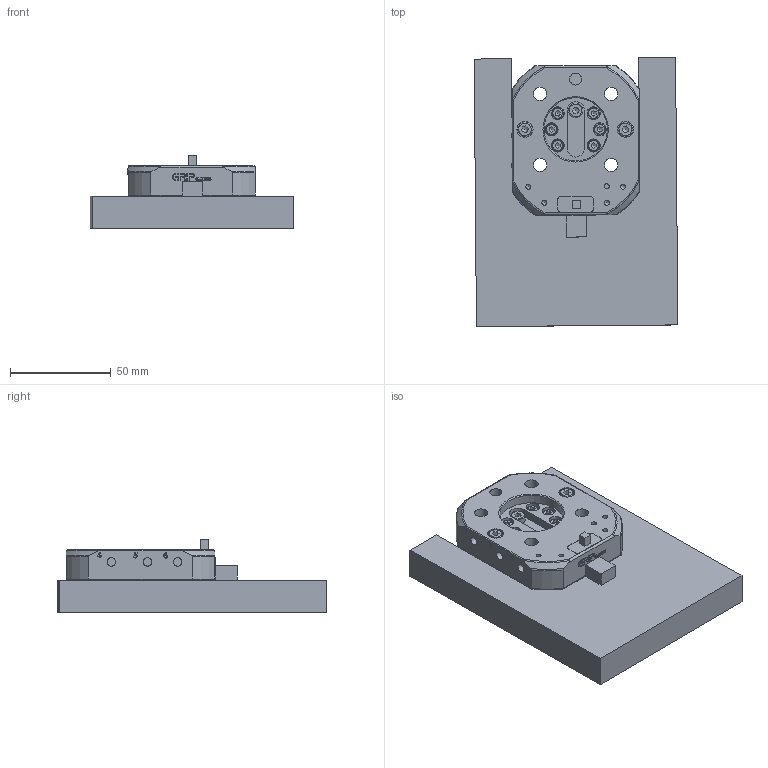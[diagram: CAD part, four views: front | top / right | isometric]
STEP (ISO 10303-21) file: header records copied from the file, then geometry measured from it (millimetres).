
FILE_DESCRIPTION(/* description */ (''),/* implementation_level */ '2;1');
FILE_NAME(/* name */ 'T:\CAD\Neuentwicklungen\G-AC063 Auto Connector\G-AC063-2OEP_LT.stp',/* time_stamp */ '2021-07-07T14:53:08+02:00',/* author */ ('vbednarz'),/* organization */ (''),/* preprocessor_version */ 'ST-DEVELOPER v17',/* originating_system */ 'Autodesk Inventor 2018',/* authorisation */ '');
FILE_SCHEMA (('CONFIG_CONTROL_DESIGN'));
Length unit declared in the file: millimetre
Products named in the file (1): G-AC063-2OEP
Bounding box: 101.25 x 133.85 x 36 mm (x, y, z)
Volume: 205663 mm3; surface area: 46545.7 mm2
Topology: 3 solids, 19 shells, 681 faces, 1781 edges, 1203 vertices
Faces by surface type: plane 292, cylinder 160, bspline 152, torus 42, cone 35
Full cylindrical faces by diameter (mm): 0.023 x2, 0.336 x1, 2 x4, 2.5 x7, 3 x1, 4 x1, 4.2 x6, 5 x2, 5.5 x6, 6 x3, 6.02 x2, 6.5 x6, 6.6 x4, 7 x3, 7.5 x8, 7.9 x8, 8 x2, 11 x4, 31.5 x2
Entity records: 26165 total; most frequent: CARTESIAN_POINT 9623, ORIENTED_EDGE 3516, DIRECTION 2850, EDGE_CURVE 1758, VERTEX_POINT 1203, AXIS2_PLACEMENT_3D 1005, LINE 840, VECTOR 840
